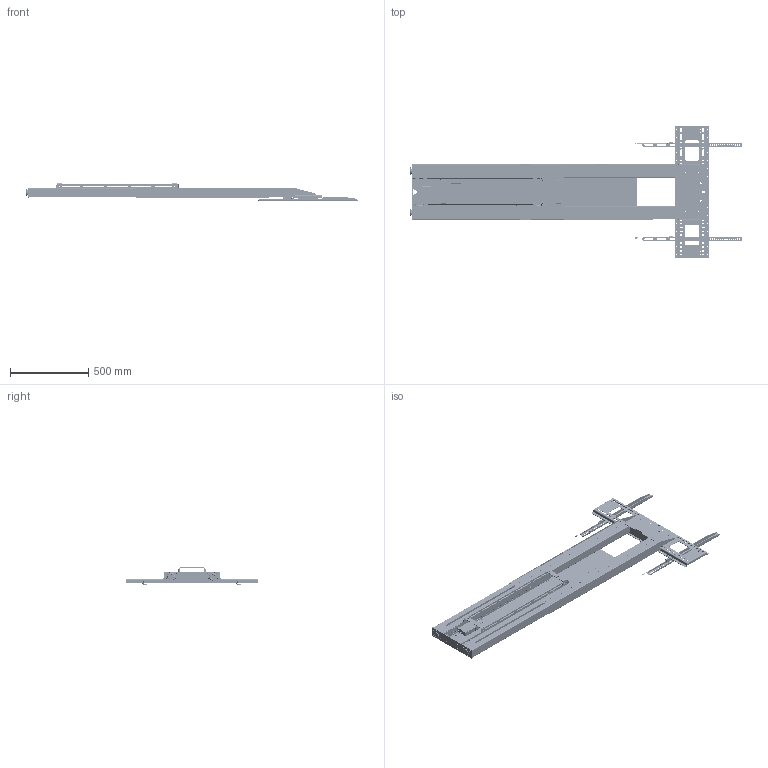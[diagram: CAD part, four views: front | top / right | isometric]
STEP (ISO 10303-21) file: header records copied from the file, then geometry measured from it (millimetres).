
FILE_DESCRIPTION((''),'2;1');
FILE_NAME('F51_WALL_MOUNT_MAX_ASM_ASM_ASM','2022-02-26T09:25:12',('103247'),('捷昌驱动'),'CREO PARAMETRIC BY PTC INC, 2018100','CREO PARAMETRIC BY PTC INC, 2018100','');
FILE_SCHEMA(('CONFIG_CONTROL_DESIGN'));
Products named in the file (62): RR05-304_TOP_BRACKET_42_1_1; JCSP-0722_1_1_2_1_1; RR05-251_LEG_TOP4_ASM_27_ASM_1__ASM; JS36DR-2331_AF0_1_1; JS36DR-2330_ASM_1_ASM_1_ASM; JS36DR-1576_1_1; JS36DR-2329_ASM_1_ASM_1_ASM; JS36DR-2329_ASM_ASM_1_ASM; RR05-251_LEG_TOP5_ASM_12_ASM_1__ASM; RR05-201_FRONT_TOP_COVER_25_1_1; NS1_3_6_ASM_1_ASM_1_1_2_3_ASM_2; NS1_3_6_ASM_1_1_ASM_1_ASM_1_A_1_ASM; 0000210278_ASM_1_ASM_1_ASM_1_1__ASM; 0000210276_ASM_1_ASM_1_ASM_1_1__ASM; JCB35NS1-A_ASM_1_ASM_1_1_ASM_1__ASM; JC35TS-1804_1_1_1_8_1_1; ______17135_1_1_1_1_1_1_1; ______17135_1_2_1_1_1_1_1; ______17135_1_3_1_1_1_1_1; ______17135_1_4_1_1_1_1_1; ______17135_1_5_1_1_1_1_1; ______17135_1_ASM_1_1_ASM_1_ASM_ASM; JC35TS-1807_1_ASM_1_1_ASM_1_ASM_ASM; JC35TS-1806_1_1_1_1_1_1; JC35TS-1805_1_1_1_1_1_1; JC35TF-0137_1_1_1_2_1_1; JCSP-0412_1_1_1_1_1_1; JCSP-0474_1_1_1_1_1_1; JC35TS-T191184_ASM_1_ASM_1_1_AS_ASM; JC35TS-T215007_ASM_1_ASM_1_1_AS_ASM; 2_ASM_1_1_ASM_1_ASM_1_ASM_1_ASM; RR05-300_MONITOR_CHASSIS_ASM_12_ASM; RR05-250_TOP_ASM_ASM_61_ASM_1_A_ASM; JC35TS-1855_1_1_3_1_1; JC35TS-0270_1_1_1_1_1; JC35TS-1668_1_1_5_1_1; RR05-255-1_WALL_MOUNT_BRACKET_1; RR05-255-2_WALL_MOUNT_BRACKET_1; RR05-204_U_BRACKET_10_2_1; RR05-202-1_CONTROLLER_3_1_1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
Assembly tree (89 placements, depth 13):
  F51_WALL_MOUNT_MAX_ASM_ASM_ASM
    F50_WALL_MOUNT_MAX_ASM_ASM_1_ASM
      F50_WALL_MOUNT_MAX_ASM_1_ASM_1_ASM
        RR05-150_MAIN_ASM_ASM_103_ASM_1_ASM
          RR05-250_TOP_ASM_ASM_61_ASM_1_A_ASM
            RR05-251_LEG_TOP5_ASM_12_ASM_1__ASM
              RR05-251_LEG_TOP4_ASM_27_ASM_1__ASM
                RR05-304_TOP_BRACKET_42_1_1
                JCSP-0722_1_1_2_1_1  x8
              JS36DR-2329_ASM_ASM_1_ASM  x2
                JS36DR-2329_ASM_1_ASM_1_ASM
                  JS36DR-2330_ASM_1_ASM_1_ASM
                  JS36DR-1576_1_1
            RR05-201_FRONT_TOP_COVER_25_1_1
            RR05-300_MONITOR_CHASSIS_ASM_12_ASM
              2_ASM_1_1_ASM_1_ASM_1_ASM_1_ASM
                JC35TS-T215007_ASM_1_ASM_1_1_AS_ASM
                  JCB35NS1-A_ASM_1_ASM_1_1_ASM_1__ASM
                  JC35TS-1804_1_1_1_8_1_1
                  JC35TS-T191184_ASM_1_ASM_1_1_AS_ASM  x2
          RR05-252_LEG_BOT_ASM_65_ASM_3_A_ASM
            JC35TS-1855_1_1_3_1_1
            JC35TS-0270_1_1_1_1_1  x2
            JC35TS-1668_1_1_5_1_1
            JCSP-0722_1_1_2_1_1  x8
            RR05-255-1_WALL_MOUNT_BRACKET_1
            RR05-255-2_WALL_MOUNT_BRACKET_1
            RR05-204_U_BRACKET_10_2_1  x2
            RR05-202_CONTROLLER_ASM_ASM_7_A_ASM
              RR05-202-1_CONTROLLER_3_1_1
              RR05-256-2_BRACKET_SCREWS_8_1_1  x2
            RR05-256-2_BRACKET_SCREWS_8_1_1  x6
            JS36DR-2342_ASM_ASM_1_ASM
              JS36DR-2342_ASM_1_ASM_1_ASM
                JS36DR-2340_ASM_1_ASM_1_ASM
                  JS36DR-2341_ASM_1_ASM_1_ASM
                  JC35PJ-0476_1_1  x2
                JC35TS-0166_1_1
            JS36DR-2339_ASM_ASM_1_ASM
              JS36DR-2339_ASM_1_ASM_1_ASM
                JS36DR-2338_ASM_1_ASM_1_ASM
                  JS36DR-2336_ASM_1_ASM_1_ASM
                  JC35PJ-0476_1_1_1  x2
                JC35TS-0166_1_1_1
    PRT0001
Bounding box: 2115.23 x 845 x 113 mm (x, y, z)
Volume: 3974518.9 mm3; surface area: 4514255.4 mm2
Topology: 69 solids, 146 shells, 4635 faces, 13025 edges, 8664 vertices
Faces by surface type: cylinder 1931, plane 1852, bspline 439, cone 218, torus 103, extrusion 86, sphere 6
Entity records: 138603 total; most frequent: CARTESIAN_POINT 61057, ORIENTED_EDGE 16156, DIRECTION 15420, EDGE_CURVE 8191, VERTEX_POINT 5471, AXIS2_PLACEMENT_3D 5332, VECTOR 4756, LINE 4671
